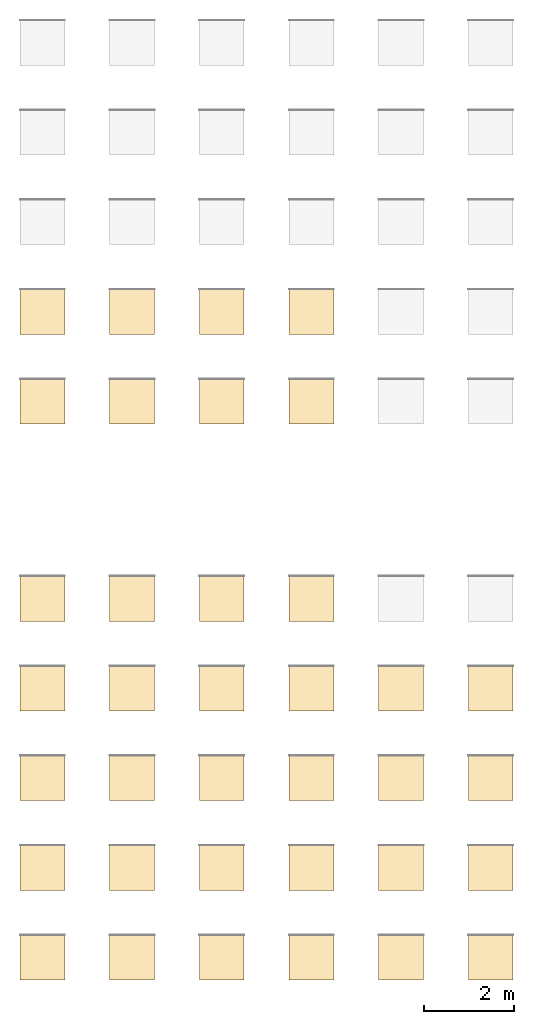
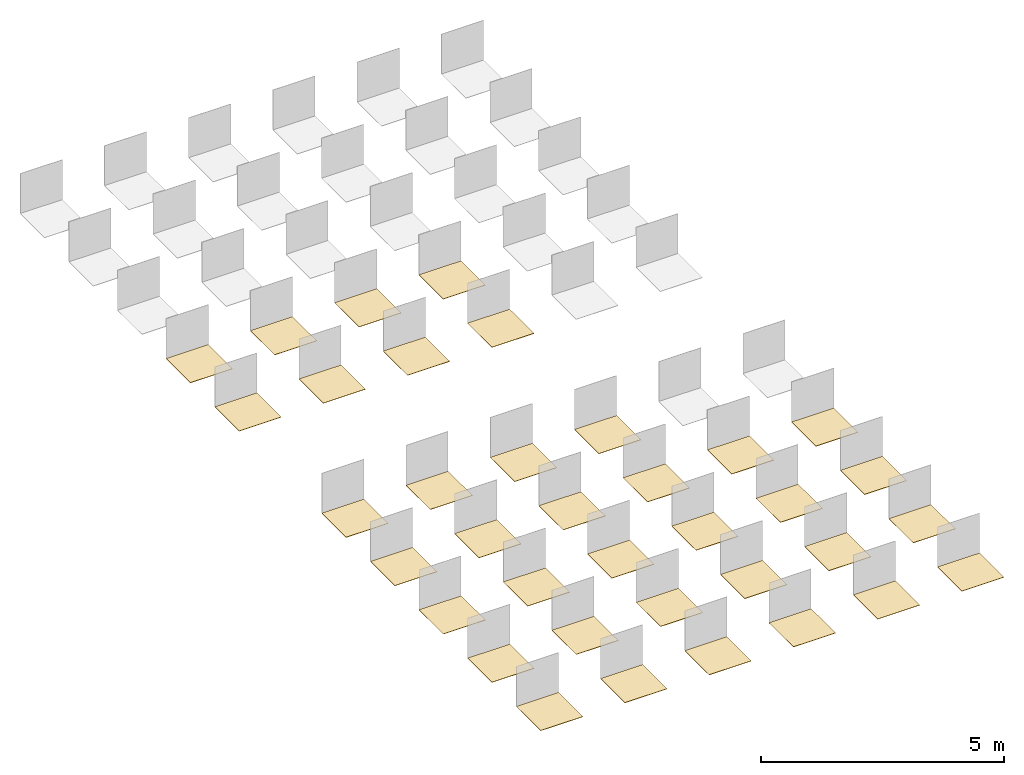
# One storey, part 3 of 4: 36 coverings.
"""IFC2X3 building model written with IfcOpenShell, lengths in millimetres."""

from ifc_helpers import new_model, entity, si_unit, converted_unit, derived_unit, direction, frame, frame_2d, origin, origin_2d_with_axis, place, context, subcontext, project, spatial, rectangle, extrude, material, layer, layer_set, layer_usage, type_object, element, save


model = new_model("IFC2X3")

# Units and contexts
model_context = context("Model", 3, precision=0.01, world=origin(), true_north=direction((6.12303176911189e-17, 1.0)))
body_context = subcontext(model_context, "Body", "Model", "MODEL_VIEW")
ifc_project = project(units=[si_unit("LENGTHUNIT", "METRE", prefix="MILLI"), si_unit("AREAUNIT", "SQUARE_METRE"), si_unit("VOLUMEUNIT", "CUBIC_METRE"), converted_unit("PLANEANGLEUNIT", "DEGREE", entity("IfcRatioMeasure", 0.0174532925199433), si_unit("PLANEANGLEUNIT", "RADIAN"), dimensions=[0, 0, 0, 0, 0, 0, 0]), si_unit("MASSUNIT", "GRAM", prefix="KILO"), derived_unit("MASSDENSITYUNIT", [(si_unit("MASSUNIT", "GRAM", prefix="KILO"), 1), (si_unit("LENGTHUNIT", "METRE"), -3)]), derived_unit("MOMENTOFINERTIAUNIT", [(si_unit("LENGTHUNIT", "METRE"), 4)]), si_unit("TIMEUNIT", "SECOND"), si_unit("FREQUENCYUNIT", "HERTZ"), si_unit("THERMODYNAMICTEMPERATUREUNIT", "DEGREE_CELSIUS"), derived_unit("THERMALTRANSMITTANCEUNIT", [(si_unit("MASSUNIT", "GRAM", prefix="KILO"), 1), (si_unit("THERMODYNAMICTEMPERATUREUNIT", "KELVIN"), -1), (si_unit("TIMEUNIT", "SECOND"), -3)]), derived_unit("VOLUMETRICFLOWRATEUNIT", [(si_unit("LENGTHUNIT", "METRE"), 3), (si_unit("TIMEUNIT", "SECOND"), -1)]), si_unit("ELECTRICCURRENTUNIT", "AMPERE"), si_unit("ELECTRICVOLTAGEUNIT", "VOLT"), si_unit("POWERUNIT", "WATT"), si_unit("FORCEUNIT", "NEWTON", prefix="KILO"), si_unit("ILLUMINANCEUNIT", "LUX"), si_unit("LUMINOUSFLUXUNIT", "LUMEN"), si_unit("LUMINOUSINTENSITYUNIT", "CANDELA"), derived_unit("USERDEFINED", [(si_unit("MASSUNIT", "GRAM", prefix="KILO"), -1), (si_unit("LENGTHUNIT", "METRE"), -2), (si_unit("TIMEUNIT", "SECOND"), 3), (si_unit("LUMINOUSFLUXUNIT", "LUMEN"), 1)]), derived_unit("LINEARVELOCITYUNIT", [(si_unit("LENGTHUNIT", "METRE"), 1), (si_unit("TIMEUNIT", "SECOND"), -1)]), si_unit("PRESSUREUNIT", "PASCAL"), derived_unit("USERDEFINED", [(si_unit("LENGTHUNIT", "METRE"), -2), (si_unit("MASSUNIT", "GRAM", prefix="KILO"), 1), (si_unit("TIMEUNIT", "SECOND"), -2)]), derived_unit("LINEARFORCEUNIT", [(si_unit("MASSUNIT", "GRAM", prefix="KILO"), 1), (si_unit("LENGTHUNIT", "METRE"), 1), (si_unit("TIMEUNIT", "SECOND"), -2), (si_unit("LENGTHUNIT", "METRE"), -1)]), derived_unit("PLANARFORCEUNIT", [(si_unit("MASSUNIT", "GRAM", prefix="KILO"), 1), (si_unit("LENGTHUNIT", "METRE"), 1), (si_unit("TIMEUNIT", "SECOND"), -2), (si_unit("LENGTHUNIT", "METRE"), -2)])], contexts=[model_context])

# Site, building, storey
site_placement = place(None, origin())
site = spatial("IfcSite", under=ifc_project, at=site_placement, Name="Default", CompositionType="ELEMENT")
building_placement = place(site_placement, origin())
building = spatial("IfcBuilding", under=site, at=building_placement, CompositionType="ELEMENT")
storey_placement = place(building_placement, origin())
storey = spatial("IfcBuildingStorey", under=building, at=storey_placement, Name="Level 1", CompositionType="ELEMENT", Elevation=0.0)

# Coverings
ifc_material_1 = material(Name="REVIGRÉS-OMNISTONE-BASE-30x60-MATTRECT-BONE")
ifc_layer_1 = layer(ifc_material_1, 9.8)
ifc_layer_set_1 = layer_set([ifc_layer_1], Name="Floor:REVIGRÉS-OMNISTONE-BASE-30X60-MATTRECT-BONE")
ifc_layer_usage_1 = layer_usage(ifc_layer_set_1, "AXIS3", "POSITIVE", 0.0)
covering_type_1 = type_object("IfcCoveringType", Name="Floor:REVIGRÉS-OMNISTONE-BASE-30X60-MATTRECT-BONE", PredefinedType="CLADDING", material=ifc_layer_set_1)
covering_1_placement = place(storey_placement, origin())
element("IfcCovering", 1, at=covering_1_placement, inside=storey, type_object=covering_type_1, material=ifc_layer_usage_1, Name="Floor:REVIGRÉS-OMNISTONE-BASE-30X60-MATTRECT-BONE", ObjectType="Floor:REVIGRÉS-OMNISTONE-BASE-30X60-MATTRECT-BONE", PredefinedType="CLADDING", context=body_context, shape_type="SweptSolid", body=[
    extrude(rectangle(XDim=1000.0, YDim=1000.0, at=frame_2d((-1.08002495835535e-12, 0.0), x_axis=(1.0, 0.0))), frame((508.223884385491, 10311.2034685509, 0.0), z_axis=(0.0, 0.0, -1.0), x_axis=(0.0, 1.0, 0.0)), (0.0, 0.0, 1.0), 9.8),
])
ifc_material_2 = material(Name="REVIGRÉS-OMNISTONE-BASE-60x60-MATTRECT-BONE")
ifc_layer_2 = layer(ifc_material_2, 9.8)
ifc_layer_set_2 = layer_set([ifc_layer_2], Name="Floor:REVIGRÉS-OMNISTONE-BASE-60X60-MATTRECT-BONE")
ifc_layer_usage_2 = layer_usage(ifc_layer_set_2, "AXIS3", "POSITIVE", 0.0)
covering_type_2 = type_object("IfcCoveringType", Name="Floor:REVIGRÉS-OMNISTONE-BASE-60X60-MATTRECT-BONE", PredefinedType="CLADDING", material=ifc_layer_set_2)
covering_2_placement = place(storey_placement, origin())
element("IfcCovering", 2, at=covering_2_placement, inside=storey, type_object=covering_type_2, material=ifc_layer_usage_2, Name="Floor:REVIGRÉS-OMNISTONE-BASE-60X60-MATTRECT-BONE", ObjectType="Floor:REVIGRÉS-OMNISTONE-BASE-60X60-MATTRECT-BONE", PredefinedType="CLADDING", context=body_context, shape_type="SweptSolid", body=[
    extrude(rectangle(XDim=1000.0, YDim=1000.0, at=frame_2d((-1.08002495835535e-12, 0.0), x_axis=(1.0, 0.0))), frame((508.223884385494, 12311.2034685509, 0.0), z_axis=(0.0, 0.0, -1.0), x_axis=(0.0, 1.0, 0.0)), (0.0, 0.0, 1.0), 9.8),
])
ifc_material_3 = material(Name="REVIGRÉS-OMNISTONE-BASE-30x60-SOFT-BONE")
ifc_layer_3 = layer(ifc_material_3, 9.8)
ifc_layer_set_3 = layer_set([ifc_layer_3], Name="Floor:REVIGRÉS-OMNISTONE-BASE-30X60-SOFT-BONE")
ifc_layer_usage_3 = layer_usage(ifc_layer_set_3, "AXIS3", "POSITIVE", 0.0)
covering_type_3 = type_object("IfcCoveringType", Name="Floor:REVIGRÉS-OMNISTONE-BASE-30X60-SOFT-BONE", PredefinedType="CLADDING", material=ifc_layer_set_3)
covering_3_placement = place(storey_placement, origin())
element("IfcCovering", 3, at=covering_3_placement, inside=storey, type_object=covering_type_3, material=ifc_layer_usage_3, Name="Floor:REVIGRÉS-OMNISTONE-BASE-30X60-SOFT-BONE", ObjectType="Floor:REVIGRÉS-OMNISTONE-BASE-30X60-SOFT-BONE", PredefinedType="CLADDING", context=body_context, shape_type="SweptSolid", body=[
    extrude(rectangle(XDim=1000.0, YDim=1000.0, at=frame_2d((1.08002495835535e-12, 2.8421709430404e-13), x_axis=(1.0, 0.0))), frame((2508.2238843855, 10311.2034685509, 0.0), z_axis=(0.0, 0.0, -1.0), x_axis=(0.0, 1.0, 0.0)), (0.0, 0.0, 1.0), 9.8),
])
ifc_material_4 = material(Name="REVIGRÉS-OMNISTONE-BASE-60x60-SOFT-BONE")
ifc_layer_4 = layer(ifc_material_4, 9.8)
ifc_layer_set_4 = layer_set([ifc_layer_4], Name="Floor:REVIGRÉS-OMNISTONE-BASE-60X60-SOFT-BONE")
ifc_layer_usage_4 = layer_usage(ifc_layer_set_4, "AXIS3", "POSITIVE", 0.0)
covering_type_4 = type_object("IfcCoveringType", Name="Floor:REVIGRÉS-OMNISTONE-BASE-60X60-SOFT-BONE", PredefinedType="CLADDING", material=ifc_layer_set_4)
covering_4_placement = place(storey_placement, origin())
element("IfcCovering", 4, at=covering_4_placement, inside=storey, type_object=covering_type_4, material=ifc_layer_usage_4, Name="Floor:REVIGRÉS-OMNISTONE-BASE-60X60-SOFT-BONE", ObjectType="Floor:REVIGRÉS-OMNISTONE-BASE-60X60-SOFT-BONE", PredefinedType="CLADDING", context=body_context, shape_type="SweptSolid", body=[
    extrude(rectangle(XDim=1000.0, YDim=1000.0, at=frame_2d((1.08002495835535e-12, 2.8421709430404e-13), x_axis=(1.0, 0.0))), frame((2508.22388438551, 12311.2034685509, 0.0), z_axis=(0.0, 0.0, -1.0), x_axis=(0.0, 1.0, 0.0)), (0.0, 0.0, 1.0), 9.8),
])
ifc_material_5 = material(Name="REVIGRÉS-OMNISTONE-BASE-30x60-MATTRECT-ICE")
ifc_layer_5 = layer(ifc_material_5, 9.8)
ifc_layer_set_5 = layer_set([ifc_layer_5], Name="Floor:REVIGRÉS-OMNISTONE-BASE-30X60-MATTRECT-ICE")
ifc_layer_usage_5 = layer_usage(ifc_layer_set_5, "AXIS3", "POSITIVE", 0.0)
covering_type_5 = type_object("IfcCoveringType", Name="Floor:REVIGRÉS-OMNISTONE-BASE-30X60-MATTRECT-ICE", PredefinedType="CLADDING", material=ifc_layer_set_5)
covering_5_placement = place(storey_placement, origin())
element("IfcCovering", 5, at=covering_5_placement, inside=storey, type_object=covering_type_5, material=ifc_layer_usage_5, Name="Floor:REVIGRÉS-OMNISTONE-BASE-30X60-MATTRECT-ICE", ObjectType="Floor:REVIGRÉS-OMNISTONE-BASE-30X60-MATTRECT-ICE", PredefinedType="CLADDING", context=body_context, shape_type="SweptSolid", body=[
    extrude(rectangle(XDim=1000.0, YDim=1000.0, at=frame_2d((-1.08002495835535e-12, 0.0), x_axis=(1.0, 0.0))), frame((4508.2238843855, 10311.2034685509, 0.0), z_axis=(0.0, 0.0, -1.0), x_axis=(0.0, 1.0, 0.0)), (0.0, 0.0, 1.0), 9.8),
])
ifc_material_6 = material(Name="REVIGRÉS-OMNISTONE-BASE-60x60-MATTRECT-ICE")
ifc_layer_6 = layer(ifc_material_6, 9.8)
ifc_layer_set_6 = layer_set([ifc_layer_6], Name="Floor:REVIGRÉS-OMNISTONE-BASE-60X60-MATTRECT-ICE")
ifc_layer_usage_6 = layer_usage(ifc_layer_set_6, "AXIS3", "POSITIVE", 0.0)
covering_type_6 = type_object("IfcCoveringType", Name="Floor:REVIGRÉS-OMNISTONE-BASE-60X60-MATTRECT-ICE", PredefinedType="CLADDING", material=ifc_layer_set_6)
covering_6_placement = place(storey_placement, origin())
element("IfcCovering", 6, at=covering_6_placement, inside=storey, type_object=covering_type_6, material=ifc_layer_usage_6, Name="Floor:REVIGRÉS-OMNISTONE-BASE-60X60-MATTRECT-ICE", ObjectType="Floor:REVIGRÉS-OMNISTONE-BASE-60X60-MATTRECT-ICE", PredefinedType="CLADDING", context=body_context, shape_type="SweptSolid", body=[
    extrude(rectangle(XDim=1000.0, YDim=1000.0, at=frame_2d((-1.08002495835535e-12, 0.0), x_axis=(1.0, 0.0))), frame((4508.22388438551, 12311.2034685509, 0.0), z_axis=(0.0, 0.0, -1.0), x_axis=(0.0, 1.0, 0.0)), (0.0, 0.0, 1.0), 9.8),
])
ifc_material_7 = material(Name="REVIGRÉS-OMNISTONE-BASE-30x60-SOFT-ICE")
ifc_layer_7 = layer(ifc_material_7, 9.8)
ifc_layer_set_7 = layer_set([ifc_layer_7], Name="Floor:REVIGRÉS-OMNISTONE-BASE-30X60-SOFT-ICE")
ifc_layer_usage_7 = layer_usage(ifc_layer_set_7, "AXIS3", "POSITIVE", 0.0)
covering_type_7 = type_object("IfcCoveringType", Name="Floor:REVIGRÉS-OMNISTONE-BASE-30X60-SOFT-ICE", PredefinedType="CLADDING", material=ifc_layer_set_7)
covering_7_placement = place(storey_placement, origin())
element("IfcCovering", 7, at=covering_7_placement, inside=storey, type_object=covering_type_7, material=ifc_layer_usage_7, Name="Floor:REVIGRÉS-OMNISTONE-BASE-30X60-SOFT-ICE", ObjectType="Floor:REVIGRÉS-OMNISTONE-BASE-30X60-SOFT-ICE", PredefinedType="CLADDING", context=body_context, shape_type="SweptSolid", body=[
    extrude(rectangle(XDim=1000.0, YDim=1000.0, at=frame_2d((-1.08002495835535e-12, 0.0), x_axis=(1.0, 0.0))), frame((6508.22388438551, 10311.2034685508, 0.0), z_axis=(0.0, 0.0, -1.0), x_axis=(0.0, 1.0, 0.0)), (0.0, 0.0, 1.0), 9.8),
])
ifc_material_8 = material(Name="REVIGRÉS-OMNISTONE-BASE-60x60-SOFT-ICE")
ifc_layer_8 = layer(ifc_material_8, 9.8)
ifc_layer_set_8 = layer_set([ifc_layer_8], Name="Floor:REVIGRÉS-OMNISTONE-BASE-60X60-SOFT-ICE")
ifc_layer_usage_8 = layer_usage(ifc_layer_set_8, "AXIS3", "POSITIVE", 0.0)
covering_type_8 = type_object("IfcCoveringType", Name="Floor:REVIGRÉS-OMNISTONE-BASE-60X60-SOFT-ICE", PredefinedType="CLADDING", material=ifc_layer_set_8)
covering_8_placement = place(storey_placement, origin())
element("IfcCovering", 8, at=covering_8_placement, inside=storey, type_object=covering_type_8, material=ifc_layer_usage_8, Name="Floor:REVIGRÉS-OMNISTONE-BASE-60X60-SOFT-ICE", ObjectType="Floor:REVIGRÉS-OMNISTONE-BASE-60X60-SOFT-ICE", PredefinedType="CLADDING", context=body_context, shape_type="SweptSolid", body=[
    extrude(rectangle(XDim=1000.0, YDim=1000.0, at=frame_2d((-1.08002495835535e-12, 0.0), x_axis=(1.0, 0.0))), frame((6508.22388438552, 12311.2034685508, 0.0), z_axis=(0.0, 0.0, -1.0), x_axis=(0.0, 1.0, 0.0)), (0.0, 0.0, 1.0), 9.8),
])
ifc_material_9 = material(Name="REVIGRÉS-OMNISTONE-BASE-30x60-MATTRECT-JET")
ifc_layer_9 = layer(ifc_material_9, 9.8)
ifc_layer_set_9 = layer_set([ifc_layer_9], Name="Floor:REVIGRÉS-OMNISTONE-BASE-30X60-MATTRECT-JET")
ifc_layer_usage_9 = layer_usage(ifc_layer_set_9, "AXIS3", "POSITIVE", 0.0)
covering_type_9 = type_object("IfcCoveringType", Name="Floor:REVIGRÉS-OMNISTONE-BASE-30X60-MATTRECT-JET", PredefinedType="CLADDING", material=ifc_layer_set_9)
covering_9_placement = place(storey_placement, origin())
element("IfcCovering", 9, at=covering_9_placement, inside=storey, type_object=covering_type_9, material=ifc_layer_usage_9, Name="Floor:REVIGRÉS-OMNISTONE-BASE-30X60-MATTRECT-JET", ObjectType="Floor:REVIGRÉS-OMNISTONE-BASE-30X60-MATTRECT-JET", PredefinedType="CLADDING", context=body_context, shape_type="SweptSolid", body=[
    extrude(rectangle(XDim=1000.0, YDim=999.999999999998, at=origin_2d_with_axis()), frame((508.223884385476, -2088.79653144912, 0.0), z_axis=(0.0, 0.0, -1.0), x_axis=(0.0, 1.0, 0.0)), (0.0, 0.0, 1.0), 9.8),
])
ifc_material_10 = material(Name="REVIGRÉS-OMNISTONE-BASE-60x60-MATTRECT-JET")
ifc_layer_10 = layer(ifc_material_10, 9.8)
ifc_layer_set_10 = layer_set([ifc_layer_10], Name="Floor:REVIGRÉS-OMNISTONE-BASE-60X60-MATTRECT-JET")
ifc_layer_usage_10 = layer_usage(ifc_layer_set_10, "AXIS3", "POSITIVE", 0.0)
covering_type_10 = type_object("IfcCoveringType", Name="Floor:REVIGRÉS-OMNISTONE-BASE-60X60-MATTRECT-JET", PredefinedType="CLADDING", material=ifc_layer_set_10)
covering_10_placement = place(storey_placement, origin())
element("IfcCovering", 10, at=covering_10_placement, inside=storey, type_object=covering_type_10, material=ifc_layer_usage_10, Name="Floor:REVIGRÉS-OMNISTONE-BASE-60X60-MATTRECT-JET", ObjectType="Floor:REVIGRÉS-OMNISTONE-BASE-60X60-MATTRECT-JET", PredefinedType="CLADDING", context=body_context, shape_type="SweptSolid", body=[
    extrude(rectangle(XDim=1000.0, YDim=1000.0, at=origin_2d_with_axis()), frame((508.223884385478, -88.7965314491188, 0.0), z_axis=(0.0, 0.0, -1.0), x_axis=(0.0, 1.0, 0.0)), (0.0, 0.0, 1.0), 9.8),
])
ifc_material_11 = material(Name="REVIGRÉS-OMNISTONE-BASE-60x120-MATTRECT-JET")
ifc_layer_11 = layer(ifc_material_11, 9.8)
ifc_layer_set_11 = layer_set([ifc_layer_11], Name="Floor:REVIGRÉS-OMNISTONE-BASE-60X120-MATTRECT-JET")
ifc_layer_usage_11 = layer_usage(ifc_layer_set_11, "AXIS3", "POSITIVE", 0.0)
covering_type_11 = type_object("IfcCoveringType", Name="Floor:REVIGRÉS-OMNISTONE-BASE-60X120-MATTRECT-JET", PredefinedType="CLADDING", material=ifc_layer_set_11)
covering_11_placement = place(storey_placement, origin())
element("IfcCovering", 11, at=covering_11_placement, inside=storey, type_object=covering_type_11, material=ifc_layer_usage_11, Name="Floor:REVIGRÉS-OMNISTONE-BASE-60X120-MATTRECT-JET", ObjectType="Floor:REVIGRÉS-OMNISTONE-BASE-60X120-MATTRECT-JET", PredefinedType="CLADDING", context=body_context, shape_type="SweptSolid", body=[
    extrude(rectangle(XDim=1000.0, YDim=1000.0, at=origin_2d_with_axis()), frame((508.223884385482, 1911.20346855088, 0.0), z_axis=(0.0, 0.0, -1.0), x_axis=(0.0, 1.0, 0.0)), (0.0, 0.0, 1.0), 9.8),
])
ifc_material_12 = material(Name="REVIGRÉS-OMNISTONE-BASE-45x90-MATTRECT-JET")
ifc_layer_12 = layer(ifc_material_12, 10.5)
ifc_layer_set_12 = layer_set([ifc_layer_12], Name="Floor:REVIGRÉS-OMNISTONE-BASE-45X90-MATTRECT-JET")
ifc_layer_usage_12 = layer_usage(ifc_layer_set_12, "AXIS3", "POSITIVE", 0.0)
covering_type_12 = type_object("IfcCoveringType", Name="Floor:REVIGRÉS-OMNISTONE-BASE-45X90-MATTRECT-JET", PredefinedType="CLADDING", material=ifc_layer_set_12)
covering_12_placement = place(storey_placement, origin())
element("IfcCovering", 12, at=covering_12_placement, inside=storey, type_object=covering_type_12, material=ifc_layer_usage_12, Name="Floor:REVIGRÉS-OMNISTONE-BASE-45X90-MATTRECT-JET", ObjectType="Floor:REVIGRÉS-OMNISTONE-BASE-45X90-MATTRECT-JET", PredefinedType="CLADDING", context=body_context, shape_type="SweptSolid", body=[
    extrude(rectangle(XDim=1000.0, YDim=1000.0, at=origin_2d_with_axis()), frame((508.223884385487, 3911.20346855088, 0.0), z_axis=(0.0, 0.0, -1.0), x_axis=(0.0, 1.0, 0.0)), (0.0, 0.0, 1.0), 10.5),
])
ifc_material_13 = material(Name="REVIGRÉS-OMNISTONE-BASE-90x90-MATTRECT-JET")
ifc_layer_13 = layer(ifc_material_13, 10.5)
ifc_layer_set_13 = layer_set([ifc_layer_13], Name="Floor:REVIGRÉS-OMNISTONE-BASE-90X90-MATTRECT-JET")
ifc_layer_usage_13 = layer_usage(ifc_layer_set_13, "AXIS3", "POSITIVE", 0.0)
covering_type_13 = type_object("IfcCoveringType", Name="Floor:REVIGRÉS-OMNISTONE-BASE-90X90-MATTRECT-JET", PredefinedType="CLADDING", material=ifc_layer_set_13)
covering_13_placement = place(storey_placement, origin())
element("IfcCovering", 13, at=covering_13_placement, inside=storey, type_object=covering_type_13, material=ifc_layer_usage_13, Name="Floor:REVIGRÉS-OMNISTONE-BASE-90X90-MATTRECT-JET", ObjectType="Floor:REVIGRÉS-OMNISTONE-BASE-90X90-MATTRECT-JET", PredefinedType="CLADDING", context=body_context, shape_type="SweptSolid", body=[
    extrude(rectangle(XDim=1000.0, YDim=999.999999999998, at=origin_2d_with_axis()), frame((508.223884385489, 5911.20346855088, 0.0), z_axis=(0.0, 0.0, -1.0), x_axis=(0.0, 1.0, 0.0)), (0.0, 0.0, 1.0), 10.5),
])
ifc_material_14 = material(Name="REVIGRÉS-OMNISTONE-BASE-30x60-SOFT-JET")
ifc_layer_14 = layer(ifc_material_14, 9.8)
ifc_layer_set_14 = layer_set([ifc_layer_14], Name="Floor:REVIGRÉS-OMNISTONE-BASE-30X60-SOFT-JET")
ifc_layer_usage_14 = layer_usage(ifc_layer_set_14, "AXIS3", "POSITIVE", 0.0)
covering_type_14 = type_object("IfcCoveringType", Name="Floor:REVIGRÉS-OMNISTONE-BASE-30X60-SOFT-JET", PredefinedType="CLADDING", material=ifc_layer_set_14)
covering_14_placement = place(storey_placement, origin())
element("IfcCovering", 14, at=covering_14_placement, inside=storey, type_object=covering_type_14, material=ifc_layer_usage_14, Name="Floor:REVIGRÉS-OMNISTONE-BASE-30X60-SOFT-JET", ObjectType="Floor:REVIGRÉS-OMNISTONE-BASE-30X60-SOFT-JET", PredefinedType="CLADDING", context=body_context, shape_type="SweptSolid", body=[
    extrude(rectangle(XDim=1000.0, YDim=999.999999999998, at=origin_2d_with_axis()), frame((2508.22388438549, -2088.79653144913, 0.0), z_axis=(0.0, 0.0, -1.0), x_axis=(0.0, 1.0, 0.0)), (0.0, 0.0, 1.0), 9.8),
])
ifc_material_15 = material(Name="REVIGRÉS-OMNISTONE-BASE-60x60-SOFT-JET")
ifc_layer_15 = layer(ifc_material_15, 9.8)
ifc_layer_set_15 = layer_set([ifc_layer_15], Name="Floor:REVIGRÉS-OMNISTONE-BASE-60X60-SOFT-JET")
ifc_layer_usage_15 = layer_usage(ifc_layer_set_15, "AXIS3", "POSITIVE", 0.0)
covering_type_15 = type_object("IfcCoveringType", Name="Floor:REVIGRÉS-OMNISTONE-BASE-60X60-SOFT-JET", PredefinedType="CLADDING", material=ifc_layer_set_15)
covering_15_placement = place(storey_placement, origin())
element("IfcCovering", 15, at=covering_15_placement, inside=storey, type_object=covering_type_15, material=ifc_layer_usage_15, Name="Floor:REVIGRÉS-OMNISTONE-BASE-60X60-SOFT-JET", ObjectType="Floor:REVIGRÉS-OMNISTONE-BASE-60X60-SOFT-JET", PredefinedType="CLADDING", context=body_context, shape_type="SweptSolid", body=[
    extrude(rectangle(XDim=1000.0, YDim=999.999999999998, at=origin_2d_with_axis()), frame((2508.2238843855, -88.7965314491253, 0.0), z_axis=(0.0, 0.0, -1.0), x_axis=(0.0, 1.0, 0.0)), (0.0, 0.0, 1.0), 9.8),
])
ifc_material_16 = material(Name="REVIGRÉS-OMNISTONE-BASE-60x120-SOFT-JET")
ifc_layer_16 = layer(ifc_material_16, 9.8)
ifc_layer_set_16 = layer_set([ifc_layer_16], Name="Floor:REVIGRÉS-OMNISTONE-BASE-60X120-SOFT-JET")
ifc_layer_usage_16 = layer_usage(ifc_layer_set_16, "AXIS3", "POSITIVE", 0.0)
covering_type_16 = type_object("IfcCoveringType", Name="Floor:REVIGRÉS-OMNISTONE-BASE-60X120-SOFT-JET", PredefinedType="CLADDING", material=ifc_layer_set_16)
covering_16_placement = place(storey_placement, origin())
element("IfcCovering", 16, at=covering_16_placement, inside=storey, type_object=covering_type_16, material=ifc_layer_usage_16, Name="Floor:REVIGRÉS-OMNISTONE-BASE-60X120-SOFT-JET", ObjectType="Floor:REVIGRÉS-OMNISTONE-BASE-60X120-SOFT-JET", PredefinedType="CLADDING", context=body_context, shape_type="SweptSolid", body=[
    extrude(rectangle(XDim=1000.0, YDim=999.999999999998, at=origin_2d_with_axis()), frame((2508.2238843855, 1911.20346855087, 0.0), z_axis=(0.0, 0.0, -1.0), x_axis=(0.0, 1.0, 0.0)), (0.0, 0.0, 1.0), 9.8),
])
ifc_material_17 = material(Name="REVIGRÉS-OMNISTONE-BASE-45x90-SOFT-JET")
ifc_layer_17 = layer(ifc_material_17, 10.5)
ifc_layer_set_17 = layer_set([ifc_layer_17], Name="Floor:REVIGRÉS-OMNISTONE-BASE-45X90-SOFT-JET")
ifc_layer_usage_17 = layer_usage(ifc_layer_set_17, "AXIS3", "POSITIVE", 0.0)
covering_type_17 = type_object("IfcCoveringType", Name="Floor:REVIGRÉS-OMNISTONE-BASE-45X90-SOFT-JET", PredefinedType="CLADDING", material=ifc_layer_set_17)
covering_17_placement = place(storey_placement, origin())
element("IfcCovering", 17, at=covering_17_placement, inside=storey, type_object=covering_type_17, material=ifc_layer_usage_17, Name="Floor:REVIGRÉS-OMNISTONE-BASE-45X90-SOFT-JET", ObjectType="Floor:REVIGRÉS-OMNISTONE-BASE-45X90-SOFT-JET", PredefinedType="CLADDING", context=body_context, shape_type="SweptSolid", body=[
    extrude(rectangle(XDim=1000.0, YDim=999.999999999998, at=origin_2d_with_axis()), frame((2508.2238843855, 3911.20346855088, 0.0), z_axis=(0.0, 0.0, -1.0), x_axis=(0.0, 1.0, 0.0)), (0.0, 0.0, 1.0), 10.5),
])
ifc_material_18 = material(Name="REVIGRÉS-OMNISTONE-BASE-90x90-SOFT-JET")
ifc_layer_18 = layer(ifc_material_18, 10.5)
ifc_layer_set_18 = layer_set([ifc_layer_18], Name="Floor:REVIGRÉS-OMNISTONE-BASE-90X90-SOFT-JET")
ifc_layer_usage_18 = layer_usage(ifc_layer_set_18, "AXIS3", "POSITIVE", 0.0)
covering_type_18 = type_object("IfcCoveringType", Name="Floor:REVIGRÉS-OMNISTONE-BASE-90X90-SOFT-JET", PredefinedType="CLADDING", material=ifc_layer_set_18)
covering_18_placement = place(storey_placement, origin())
element("IfcCovering", 18, at=covering_18_placement, inside=storey, type_object=covering_type_18, material=ifc_layer_usage_18, Name="Floor:REVIGRÉS-OMNISTONE-BASE-90X90-SOFT-JET", ObjectType="Floor:REVIGRÉS-OMNISTONE-BASE-90X90-SOFT-JET", PredefinedType="CLADDING", context=body_context, shape_type="SweptSolid", body=[
    extrude(rectangle(XDim=1000.0, YDim=999.999999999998, at=origin_2d_with_axis()), frame((2508.22388438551, 5911.20346855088, 0.0), z_axis=(0.0, 0.0, -1.0), x_axis=(0.0, 1.0, 0.0)), (0.0, 0.0, 1.0), 10.5),
])
ifc_material_19 = material(Name="REVIGRÉS-OMNISTONE-BASE-30x60-MATTRECT-PLATINA")
ifc_layer_19 = layer(ifc_material_19, 9.8)
ifc_layer_set_19 = layer_set([ifc_layer_19], Name="Floor:REVIGRÉS-OMNISTONE-BASE-30X60-MATTRECT-PLATINA")
ifc_layer_usage_19 = layer_usage(ifc_layer_set_19, "AXIS3", "POSITIVE", 0.0)
covering_type_19 = type_object("IfcCoveringType", Name="Floor:REVIGRÉS-OMNISTONE-BASE-30X60-MATTRECT-PLATINA", PredefinedType="CLADDING", material=ifc_layer_set_19)
covering_19_placement = place(storey_placement, origin())
element("IfcCovering", 19, at=covering_19_placement, inside=storey, type_object=covering_type_19, material=ifc_layer_usage_19, Name="Floor:REVIGRÉS-OMNISTONE-BASE-30X60-MATTRECT-PLATINA", ObjectType="Floor:REVIGRÉS-OMNISTONE-BASE-30X60-MATTRECT-PLATINA", PredefinedType="CLADDING", context=body_context, shape_type="SweptSolid", body=[
    extrude(rectangle(XDim=1000.0, YDim=999.999999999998, at=origin_2d_with_axis()), frame((4508.22388438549, -2088.79653144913, 0.0), z_axis=(0.0, 0.0, -1.0), x_axis=(0.0, 1.0, 0.0)), (0.0, 0.0, 1.0), 9.8),
])
ifc_material_20 = material(Name="REVIGRÉS-OMNISTONE-BASE-60x60-MATTRECT-PLATINA")
ifc_layer_20 = layer(ifc_material_20, 9.8)
ifc_layer_set_20 = layer_set([ifc_layer_20], Name="Floor:REVIGRÉS-OMNISTONE-BASE-60X60-MATTRECT-PLATINA")
ifc_layer_usage_20 = layer_usage(ifc_layer_set_20, "AXIS3", "POSITIVE", 0.0)
covering_type_20 = type_object("IfcCoveringType", Name="Floor:REVIGRÉS-OMNISTONE-BASE-60X60-MATTRECT-PLATINA", PredefinedType="CLADDING", material=ifc_layer_set_20)
covering_20_placement = place(storey_placement, origin())
element("IfcCovering", 20, at=covering_20_placement, inside=storey, type_object=covering_type_20, material=ifc_layer_usage_20, Name="Floor:REVIGRÉS-OMNISTONE-BASE-60X60-MATTRECT-PLATINA", ObjectType="Floor:REVIGRÉS-OMNISTONE-BASE-60X60-MATTRECT-PLATINA", PredefinedType="CLADDING", context=body_context, shape_type="SweptSolid", body=[
    extrude(rectangle(XDim=1000.0, YDim=1000.0, at=origin_2d_with_axis()), frame((4508.2238843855, -88.7965314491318, 0.0), z_axis=(0.0, 0.0, -1.0), x_axis=(0.0, 1.0, 0.0)), (0.0, 0.0, 1.0), 9.8),
])
ifc_material_21 = material(Name="REVIGRÉS-OMNISTONE-BASE-60x120-MATTRECT-PLATINA")
ifc_layer_21 = layer(ifc_material_21, 9.8)
ifc_layer_set_21 = layer_set([ifc_layer_21], Name="Floor:REVIGRÉS-OMNISTONE-BASE-60X120-MATTRECT-PLATINA")
ifc_layer_usage_21 = layer_usage(ifc_layer_set_21, "AXIS3", "POSITIVE", 0.0)
covering_type_21 = type_object("IfcCoveringType", Name="Floor:REVIGRÉS-OMNISTONE-BASE-60X120-MATTRECT-PLATINA", PredefinedType="CLADDING", material=ifc_layer_set_21)
covering_21_placement = place(storey_placement, origin())
element("IfcCovering", 21, at=covering_21_placement, inside=storey, type_object=covering_type_21, material=ifc_layer_usage_21, Name="Floor:REVIGRÉS-OMNISTONE-BASE-60X120-MATTRECT-PLATINA", ObjectType="Floor:REVIGRÉS-OMNISTONE-BASE-60X120-MATTRECT-PLATINA", PredefinedType="CLADDING", context=body_context, shape_type="SweptSolid", body=[
    extrude(rectangle(XDim=1000.0, YDim=1000.0, at=origin_2d_with_axis()), frame((4508.2238843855, 1911.20346855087, 0.0), z_axis=(0.0, 0.0, -1.0), x_axis=(0.0, 1.0, 0.0)), (0.0, 0.0, 1.0), 9.8),
])
ifc_material_22 = material(Name="REVIGRÉS-OMNISTONE-BASE-45x90-MATTRECT-PLATINA")
ifc_layer_22 = layer(ifc_material_22, 10.5)
ifc_layer_set_22 = layer_set([ifc_layer_22], Name="Floor:REVIGRÉS-OMNISTONE-BASE-45X90-MATTRECT-PLATINA")
ifc_layer_usage_22 = layer_usage(ifc_layer_set_22, "AXIS3", "POSITIVE", 0.0)
covering_type_22 = type_object("IfcCoveringType", Name="Floor:REVIGRÉS-OMNISTONE-BASE-45X90-MATTRECT-PLATINA", PredefinedType="CLADDING", material=ifc_layer_set_22)
covering_22_placement = place(storey_placement, origin())
element("IfcCovering", 22, at=covering_22_placement, inside=storey, type_object=covering_type_22, material=ifc_layer_usage_22, Name="Floor:REVIGRÉS-OMNISTONE-BASE-45X90-MATTRECT-PLATINA", ObjectType="Floor:REVIGRÉS-OMNISTONE-BASE-45X90-MATTRECT-PLATINA", PredefinedType="CLADDING", context=body_context, shape_type="SweptSolid", body=[
    extrude(rectangle(XDim=1000.0, YDim=1000.0, at=origin_2d_with_axis()), frame((4508.22388438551, 3911.20346855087, 0.0), z_axis=(0.0, 0.0, -1.0), x_axis=(0.0, 1.0, 0.0)), (0.0, 0.0, 1.0), 10.5),
])
ifc_material_23 = material(Name="REVIGRÉS-OMNISTONE-BASE-90x90-MATTRECT-PLATINA")
ifc_layer_23 = layer(ifc_material_23, 10.5)
ifc_layer_set_23 = layer_set([ifc_layer_23], Name="Floor:REVIGRÉS-OMNISTONE-BASE-90X90-MATTRECT-PLATINA")
ifc_layer_usage_23 = layer_usage(ifc_layer_set_23, "AXIS3", "POSITIVE", 0.0)
covering_type_23 = type_object("IfcCoveringType", Name="Floor:REVIGRÉS-OMNISTONE-BASE-90X90-MATTRECT-PLATINA", PredefinedType="CLADDING", material=ifc_layer_set_23)
covering_23_placement = place(storey_placement, origin())
element("IfcCovering", 23, at=covering_23_placement, inside=storey, type_object=covering_type_23, material=ifc_layer_usage_23, Name="Floor:REVIGRÉS-OMNISTONE-BASE-90X90-MATTRECT-PLATINA", ObjectType="Floor:REVIGRÉS-OMNISTONE-BASE-90X90-MATTRECT-PLATINA", PredefinedType="CLADDING", context=body_context, shape_type="SweptSolid", body=[
    extrude(rectangle(XDim=1000.0, YDim=999.999999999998, at=origin_2d_with_axis()), frame((4508.22388438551, 5911.20346855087, 0.0), z_axis=(0.0, 0.0, -1.0), x_axis=(0.0, 1.0, 0.0)), (0.0, 0.0, 1.0), 10.5),
])
ifc_material_24 = material(Name="REVIGRÉS-OMNISTONE-BASE-30x60-SOFT-PLATINA")
ifc_layer_24 = layer(ifc_material_24, 9.8)
ifc_layer_set_24 = layer_set([ifc_layer_24], Name="Floor:REVIGRÉS-OMNISTONE-BASE-30X60-SOFT-PLATINA")
ifc_layer_usage_24 = layer_usage(ifc_layer_set_24, "AXIS3", "POSITIVE", 0.0)
covering_type_24 = type_object("IfcCoveringType", Name="Floor:REVIGRÉS-OMNISTONE-BASE-30X60-SOFT-PLATINA", PredefinedType="CLADDING", material=ifc_layer_set_24)
covering_24_placement = place(storey_placement, origin())
element("IfcCovering", 24, at=covering_24_placement, inside=storey, type_object=covering_type_24, material=ifc_layer_usage_24, Name="Floor:REVIGRÉS-OMNISTONE-BASE-30X60-SOFT-PLATINA", ObjectType="Floor:REVIGRÉS-OMNISTONE-BASE-30X60-SOFT-PLATINA", PredefinedType="CLADDING", context=body_context, shape_type="SweptSolid", body=[
    extrude(rectangle(XDim=1000.0, YDim=999.999999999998, at=origin_2d_with_axis()), frame((6508.2238843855, -2088.79653144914, 0.0), z_axis=(0.0, 0.0, -1.0), x_axis=(0.0, 1.0, 0.0)), (0.0, 0.0, 1.0), 9.8),
])
ifc_material_25 = material(Name="REVIGRÉS-OMNISTONE-BASE-60x60-SOFT-PLATINA")
ifc_layer_25 = layer(ifc_material_25, 9.8)
ifc_layer_set_25 = layer_set([ifc_layer_25], Name="Floor:REVIGRÉS-OMNISTONE-BASE-60X60-SOFT-PLATINA")
ifc_layer_usage_25 = layer_usage(ifc_layer_set_25, "AXIS3", "POSITIVE", 0.0)
covering_type_25 = type_object("IfcCoveringType", Name="Floor:REVIGRÉS-OMNISTONE-BASE-60X60-SOFT-PLATINA", PredefinedType="CLADDING", material=ifc_layer_set_25)
covering_25_placement = place(storey_placement, origin())
element("IfcCovering", 25, at=covering_25_placement, inside=storey, type_object=covering_type_25, material=ifc_layer_usage_25, Name="Floor:REVIGRÉS-OMNISTONE-BASE-60X60-SOFT-PLATINA", ObjectType="Floor:REVIGRÉS-OMNISTONE-BASE-60X60-SOFT-PLATINA", PredefinedType="CLADDING", context=body_context, shape_type="SweptSolid", body=[
    extrude(rectangle(XDim=1000.0, YDim=999.999999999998, at=origin_2d_with_axis()), frame((6508.22388438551, -88.7965314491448, 0.0), z_axis=(0.0, 0.0, -1.0), x_axis=(0.0, 1.0, 0.0)), (0.0, 0.0, 1.0), 9.8),
])
ifc_material_26 = material(Name="REVIGRÉS-OMNISTONE-BASE-60x120-SOFT-PLATINA")
ifc_layer_26 = layer(ifc_material_26, 9.8)
ifc_layer_set_26 = layer_set([ifc_layer_26], Name="Floor:REVIGRÉS-OMNISTONE-BASE-60X120-SOFT-PLATINA")
ifc_layer_usage_26 = layer_usage(ifc_layer_set_26, "AXIS3", "POSITIVE", 0.0)
covering_type_26 = type_object("IfcCoveringType", Name="Floor:REVIGRÉS-OMNISTONE-BASE-60X120-SOFT-PLATINA", PredefinedType="CLADDING", material=ifc_layer_set_26)
covering_26_placement = place(storey_placement, origin())
element("IfcCovering", 26, at=covering_26_placement, inside=storey, type_object=covering_type_26, material=ifc_layer_usage_26, Name="Floor:REVIGRÉS-OMNISTONE-BASE-60X120-SOFT-PLATINA", ObjectType="Floor:REVIGRÉS-OMNISTONE-BASE-60X120-SOFT-PLATINA", PredefinedType="CLADDING", context=body_context, shape_type="SweptSolid", body=[
    extrude(rectangle(XDim=1000.0, YDim=999.999999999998, at=origin_2d_with_axis()), frame((6508.22388438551, 1911.20346855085, 0.0), z_axis=(0.0, 0.0, -1.0), x_axis=(0.0, 1.0, 0.0)), (0.0, 0.0, 1.0), 9.8),
])
ifc_material_27 = material(Name="REVIGRÉS-OMNISTONE-BASE-45x90-SOFT-PLATINA")
ifc_layer_27 = layer(ifc_material_27, 10.5)
ifc_layer_set_27 = layer_set([ifc_layer_27], Name="Floor:REVIGRÉS-OMNISTONE-BASE-45X90-SOFT-PLATINA")
ifc_layer_usage_27 = layer_usage(ifc_layer_set_27, "AXIS3", "POSITIVE", 0.0)
covering_type_27 = type_object("IfcCoveringType", Name="Floor:REVIGRÉS-OMNISTONE-BASE-45X90-SOFT-PLATINA", PredefinedType="CLADDING", material=ifc_layer_set_27)
covering_27_placement = place(storey_placement, origin())
element("IfcCovering", 27, at=covering_27_placement, inside=storey, type_object=covering_type_27, material=ifc_layer_usage_27, Name="Floor:REVIGRÉS-OMNISTONE-BASE-45X90-SOFT-PLATINA", ObjectType="Floor:REVIGRÉS-OMNISTONE-BASE-45X90-SOFT-PLATINA", PredefinedType="CLADDING", context=body_context, shape_type="SweptSolid", body=[
    extrude(rectangle(XDim=1000.0, YDim=999.999999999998, at=origin_2d_with_axis()), frame((6508.22388438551, 3911.20346855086, 0.0), z_axis=(0.0, 0.0, -1.0), x_axis=(0.0, 1.0, 0.0)), (0.0, 0.0, 1.0), 10.5),
])
ifc_material_28 = material(Name="REVIGRÉS-OMNISTONE-BASE-90x90-SOFT-PLATINA")
ifc_layer_28 = layer(ifc_material_28, 10.5)
ifc_layer_set_28 = layer_set([ifc_layer_28], Name="Floor:REVIGRÉS-OMNISTONE-BASE-90X90-SOFT-PLATINA")
ifc_layer_usage_28 = layer_usage(ifc_layer_set_28, "AXIS3", "POSITIVE", 0.0)
covering_type_28 = type_object("IfcCoveringType", Name="Floor:REVIGRÉS-OMNISTONE-BASE-90X90-SOFT-PLATINA", PredefinedType="CLADDING", material=ifc_layer_set_28)
covering_28_placement = place(storey_placement, origin())
element("IfcCovering", 28, at=covering_28_placement, inside=storey, type_object=covering_type_28, material=ifc_layer_usage_28, Name="Floor:REVIGRÉS-OMNISTONE-BASE-90X90-SOFT-PLATINA", ObjectType="Floor:REVIGRÉS-OMNISTONE-BASE-90X90-SOFT-PLATINA", PredefinedType="CLADDING", context=body_context, shape_type="SweptSolid", body=[
    extrude(rectangle(XDim=1000.0, YDim=999.999999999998, at=origin_2d_with_axis()), frame((6508.22388438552, 5911.20346855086, 0.0), z_axis=(0.0, 0.0, -1.0), x_axis=(0.0, 1.0, 0.0)), (0.0, 0.0, 1.0), 10.5),
])
ifc_material_29 = material(Name="REVIGRÉS-OMNISTONE-BASE-30x60-MATTRECT-ROPE")
ifc_layer_29 = layer(ifc_material_29, 9.8)
ifc_layer_set_29 = layer_set([ifc_layer_29], Name="Floor:REVIGRÉS-OMNISTONE-BASE-30X60-MATTRECT-ROPE")
ifc_layer_usage_29 = layer_usage(ifc_layer_set_29, "AXIS3", "POSITIVE", 0.0)
covering_type_29 = type_object("IfcCoveringType", Name="Floor:REVIGRÉS-OMNISTONE-BASE-30X60-MATTRECT-ROPE", PredefinedType="CLADDING", material=ifc_layer_set_29)
covering_29_placement = place(storey_placement, origin())
element("IfcCovering", 29, at=covering_29_placement, inside=storey, type_object=covering_type_29, material=ifc_layer_usage_29, Name="Floor:REVIGRÉS-OMNISTONE-BASE-30X60-MATTRECT-ROPE", ObjectType="Floor:REVIGRÉS-OMNISTONE-BASE-30X60-MATTRECT-ROPE", PredefinedType="CLADDING", context=body_context, shape_type="SweptSolid", body=[
    extrude(rectangle(XDim=1000.0, YDim=999.999999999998, at=origin_2d_with_axis()), frame((8508.22388438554, -2088.79653144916, 0.0), z_axis=(0.0, 0.0, -1.0), x_axis=(0.0, 1.0, 0.0)), (0.0, 0.0, 1.0), 9.8),
])
ifc_material_30 = material(Name="REVIGRÉS-OMNISTONE-BASE-60x60-MATTRECT-ROPE")
ifc_layer_30 = layer(ifc_material_30, 9.8)
ifc_layer_set_30 = layer_set([ifc_layer_30], Name="Floor:REVIGRÉS-OMNISTONE-BASE-60X60-MATTRECT-ROPE")
ifc_layer_usage_30 = layer_usage(ifc_layer_set_30, "AXIS3", "POSITIVE", 0.0)
covering_type_30 = type_object("IfcCoveringType", Name="Floor:REVIGRÉS-OMNISTONE-BASE-60X60-MATTRECT-ROPE", PredefinedType="CLADDING", material=ifc_layer_set_30)
covering_30_placement = place(storey_placement, origin())
element("IfcCovering", 30, at=covering_30_placement, inside=storey, type_object=covering_type_30, material=ifc_layer_usage_30, Name="Floor:REVIGRÉS-OMNISTONE-BASE-60X60-MATTRECT-ROPE", ObjectType="Floor:REVIGRÉS-OMNISTONE-BASE-60X60-MATTRECT-ROPE", PredefinedType="CLADDING", context=body_context, shape_type="SweptSolid", body=[
    extrude(rectangle(XDim=1000.0, YDim=1000.0, at=origin_2d_with_axis()), frame((8508.22388438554, -88.7965314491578, 0.0), z_axis=(0.0, 0.0, -1.0), x_axis=(0.0, 1.0, 0.0)), (0.0, 0.0, 1.0), 9.8),
])
ifc_material_31 = material(Name="REVIGRÉS-OMNISTONE-BASE-60x120-MATTRECT-ROPE")
ifc_layer_31 = layer(ifc_material_31, 9.8)
ifc_layer_set_31 = layer_set([ifc_layer_31], Name="Floor:REVIGRÉS-OMNISTONE-BASE-60X120-MATTRECT-ROPE")
ifc_layer_usage_31 = layer_usage(ifc_layer_set_31, "AXIS3", "POSITIVE", 0.0)
covering_type_31 = type_object("IfcCoveringType", Name="Floor:REVIGRÉS-OMNISTONE-BASE-60X120-MATTRECT-ROPE", PredefinedType="CLADDING", material=ifc_layer_set_31)
covering_31_placement = place(storey_placement, origin())
element("IfcCovering", 31, at=covering_31_placement, inside=storey, type_object=covering_type_31, material=ifc_layer_usage_31, Name="Floor:REVIGRÉS-OMNISTONE-BASE-60X120-MATTRECT-ROPE", ObjectType="Floor:REVIGRÉS-OMNISTONE-BASE-60X120-MATTRECT-ROPE", PredefinedType="CLADDING", context=body_context, shape_type="SweptSolid", body=[
    extrude(rectangle(XDim=1000.0, YDim=1000.0, at=origin_2d_with_axis()), frame((8508.22388438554, 1911.20346855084, 0.0), z_axis=(0.0, 0.0, -1.0), x_axis=(0.0, 1.0, 0.0)), (0.0, 0.0, 1.0), 9.8),
])
ifc_material_32 = material(Name="REVIGRÉS-OMNISTONE-BASE-45x90-MATTRECT-ROPE")
ifc_layer_32 = layer(ifc_material_32, 10.5)
ifc_layer_set_32 = layer_set([ifc_layer_32], Name="Floor:REVIGRÉS-OMNISTONE-BASE-45X90-MATTRECT-ROPE")
ifc_layer_usage_32 = layer_usage(ifc_layer_set_32, "AXIS3", "POSITIVE", 0.0)
covering_type_32 = type_object("IfcCoveringType", Name="Floor:REVIGRÉS-OMNISTONE-BASE-45X90-MATTRECT-ROPE", PredefinedType="CLADDING", material=ifc_layer_set_32)
covering_32_placement = place(storey_placement, origin())
element("IfcCovering", 32, at=covering_32_placement, inside=storey, type_object=covering_type_32, material=ifc_layer_usage_32, Name="Floor:REVIGRÉS-OMNISTONE-BASE-45X90-MATTRECT-ROPE", ObjectType="Floor:REVIGRÉS-OMNISTONE-BASE-45X90-MATTRECT-ROPE", PredefinedType="CLADDING", context=body_context, shape_type="SweptSolid", body=[
    extrude(rectangle(XDim=1000.0, YDim=1000.0, at=origin_2d_with_axis()), frame((8508.22388438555, 3911.20346855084, 0.0), z_axis=(0.0, 0.0, -1.0), x_axis=(0.0, 1.0, 0.0)), (0.0, 0.0, 1.0), 10.5),
])
ifc_material_33 = material(Name="REVIGRÉS-OMNISTONE-BASE-30x60-SOFT-ROPE")
ifc_layer_33 = layer(ifc_material_33, 9.8)
ifc_layer_set_33 = layer_set([ifc_layer_33], Name="Floor:REVIGRÉS-OMNISTONE-BASE-30X60-SOFT-ROPE")
ifc_layer_usage_33 = layer_usage(ifc_layer_set_33, "AXIS3", "POSITIVE", 0.0)
covering_type_33 = type_object("IfcCoveringType", Name="Floor:REVIGRÉS-OMNISTONE-BASE-30X60-SOFT-ROPE", PredefinedType="CLADDING", material=ifc_layer_set_33)
covering_33_placement = place(storey_placement, origin())
element("IfcCovering", 33, at=covering_33_placement, inside=storey, type_object=covering_type_33, material=ifc_layer_usage_33, Name="Floor:REVIGRÉS-OMNISTONE-BASE-30X60-SOFT-ROPE", ObjectType="Floor:REVIGRÉS-OMNISTONE-BASE-30X60-SOFT-ROPE", PredefinedType="CLADDING", context=body_context, shape_type="SweptSolid", body=[
    extrude(rectangle(XDim=1000.0, YDim=999.999999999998, at=origin_2d_with_axis()), frame((10508.2238843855, -2088.79653144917, 0.0), z_axis=(0.0, 0.0, -1.0), x_axis=(0.0, 1.0, 0.0)), (0.0, 0.0, 1.0), 9.8),
])
ifc_material_34 = material(Name="REVIGRÉS-OMNISTONE-BASE-60x60-SOFT-ROPE")
ifc_layer_34 = layer(ifc_material_34, 9.8)
ifc_layer_set_34 = layer_set([ifc_layer_34], Name="Floor:REVIGRÉS-OMNISTONE-BASE-60X60-SOFT-ROPE")
ifc_layer_usage_34 = layer_usage(ifc_layer_set_34, "AXIS3", "POSITIVE", 0.0)
covering_type_34 = type_object("IfcCoveringType", Name="Floor:REVIGRÉS-OMNISTONE-BASE-60X60-SOFT-ROPE", PredefinedType="CLADDING", material=ifc_layer_set_34)
covering_34_placement = place(storey_placement, origin())
element("IfcCovering", 34, at=covering_34_placement, inside=storey, type_object=covering_type_34, material=ifc_layer_usage_34, Name="Floor:REVIGRÉS-OMNISTONE-BASE-60X60-SOFT-ROPE", ObjectType="Floor:REVIGRÉS-OMNISTONE-BASE-60X60-SOFT-ROPE", PredefinedType="CLADDING", context=body_context, shape_type="SweptSolid", body=[
    extrude(rectangle(XDim=1000.0, YDim=999.999999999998, at=origin_2d_with_axis()), frame((10508.2238843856, -88.7965314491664, 0.0), z_axis=(0.0, 0.0, -1.0), x_axis=(0.0, 1.0, 0.0)), (0.0, 0.0, 1.0), 9.8),
])
ifc_material_35 = material(Name="REVIGRÉS-OMNISTONE-BASE-60x120-SOFT-ROPE")
ifc_layer_35 = layer(ifc_material_35, 9.8)
ifc_layer_set_35 = layer_set([ifc_layer_35], Name="Floor:REVIGRÉS-OMNISTONE-BASE-60X120-SOFT-ROPE")
ifc_layer_usage_35 = layer_usage(ifc_layer_set_35, "AXIS3", "POSITIVE", 0.0)
covering_type_35 = type_object("IfcCoveringType", Name="Floor:REVIGRÉS-OMNISTONE-BASE-60X120-SOFT-ROPE", PredefinedType="CLADDING", material=ifc_layer_set_35)
covering_35_placement = place(storey_placement, origin())
element("IfcCovering", 35, at=covering_35_placement, inside=storey, type_object=covering_type_35, material=ifc_layer_usage_35, Name="Floor:REVIGRÉS-OMNISTONE-BASE-60X120-SOFT-ROPE", ObjectType="Floor:REVIGRÉS-OMNISTONE-BASE-60X120-SOFT-ROPE", PredefinedType="CLADDING", context=body_context, shape_type="SweptSolid", body=[
    extrude(rectangle(XDim=1000.0, YDim=999.999999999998, at=origin_2d_with_axis()), frame((10508.2238843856, 1911.20346855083, 0.0), z_axis=(0.0, 0.0, -1.0), x_axis=(0.0, 1.0, 0.0)), (0.0, 0.0, 1.0), 9.8),
])
ifc_material_36 = material(Name="REVIGRÉS-OMNISTONE-BASE-45x90-SOFT-ROPE")
ifc_layer_36 = layer(ifc_material_36, 10.5)
ifc_layer_set_36 = layer_set([ifc_layer_36], Name="Floor:REVIGRÉS-OMNISTONE-BASE-45X90-SOFT-ROPE")
ifc_layer_usage_36 = layer_usage(ifc_layer_set_36, "AXIS3", "POSITIVE", 0.0)
covering_type_36 = type_object("IfcCoveringType", Name="Floor:REVIGRÉS-OMNISTONE-BASE-45X90-SOFT-ROPE", PredefinedType="CLADDING", material=ifc_layer_set_36)
covering_36_placement = place(storey_placement, origin())
element("IfcCovering", 36, at=covering_36_placement, inside=storey, type_object=covering_type_36, material=ifc_layer_usage_36, Name="Floor:REVIGRÉS-OMNISTONE-BASE-45X90-SOFT-ROPE", ObjectType="Floor:REVIGRÉS-OMNISTONE-BASE-45X90-SOFT-ROPE", PredefinedType="CLADDING", context=body_context, shape_type="SweptSolid", body=[
    extrude(rectangle(XDim=1000.0, YDim=999.999999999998, at=origin_2d_with_axis()), frame((10508.2238843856, 3911.20346855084, 0.0), z_axis=(0.0, 0.0, -1.0), x_axis=(0.0, 1.0, 0.0)), (0.0, 0.0, 1.0), 10.5),
])

save(model, "model.ifc")
